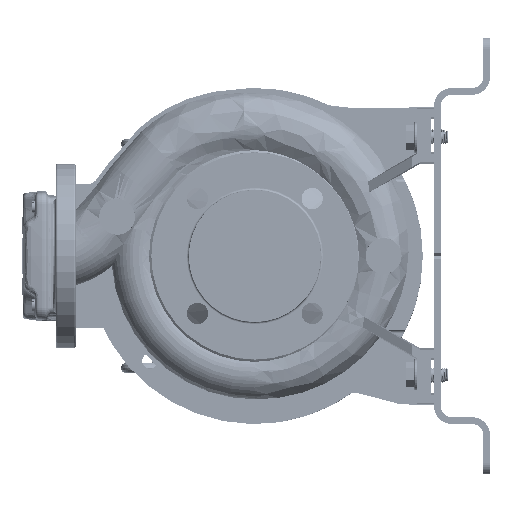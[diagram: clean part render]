
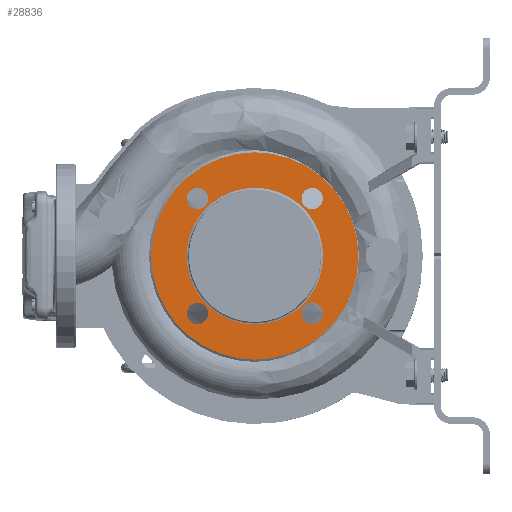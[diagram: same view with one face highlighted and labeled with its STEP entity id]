
A CAD part, left-side view. The second image highlights one B-rep face of the part: STEP entity #28836.
In plain terms, the highlighted planar face has unit normal (-1, 0, 0).
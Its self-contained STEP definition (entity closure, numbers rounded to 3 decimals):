
#1173 = EDGE_CURVE ( 'NONE', #236985, #14493, #52329, .T. ) ;
#1430 = DIRECTION ( 'NONE',  ( 0., 1., 0. ) ) ;
#1461 = EDGE_CURVE ( 'NONE', #43977, #111875, #141945, .T. ) ;
#3046 = EDGE_CURVE ( 'NONE', #185045, #164120, #125003, .T. ) ;
#5176 = DIRECTION ( 'NONE',  ( 0., 1., 0. ) ) ;
#8111 = AXIS2_PLACEMENT_3D ( 'NONE', #75409, #150077, #114531 ) ;
#8340 = CARTESIAN_POINT ( 'NONE',  ( -159.045, 254.383, 260.318 ) ) ;
#12175 = VERTEX_POINT ( 'NONE', #209422 ) ;
#12359 = DIRECTION ( 'NONE',  ( 0., 1., 0. ) ) ;
#14493 = VERTEX_POINT ( 'NONE', #230992 ) ;
#15473 = EDGE_CURVE ( 'NONE', #60992, #107835, #57093, .T. ) ;
#15976 = DIRECTION ( 'NONE',  ( -1., 0., 0. ) ) ;
#24694 = CARTESIAN_POINT ( 'NONE',  ( -159.045, 151.853, 260.318 ) ) ;
#24805 = AXIS2_PLACEMENT_3D ( 'NONE', #101609, #35141, #12359 ) ;
#28836 = ADVANCED_FACE ( 'NONE', ( #114984, #187346, #96636, #37967, #80664, #56274 ), #228930, .F. ) ;
#29179 = VERTEX_POINT ( 'NONE', #8340 ) ;
#29770 = DIRECTION ( 'NONE',  ( 0., -1., 0. ) ) ;
#35141 = DIRECTION ( 'NONE',  ( -1., 0., 0. ) ) ;
#37967 = FACE_BOUND ( 'NONE', #113024, .T. ) ;
#38101 = DIRECTION ( 'NONE',  ( -1., 0., 0. ) ) ;
#38172 = DIRECTION ( 'NONE',  ( 0., -1., 0. ) ) ;
#39035 = ORIENTED_EDGE ( 'NONE', *, *, #1461, .F. ) ;
#43977 = VERTEX_POINT ( 'NONE', #115407 ) ;
#49484 = ORIENTED_EDGE ( 'NONE', *, *, #217542, .T. ) ;
#52317 = DIRECTION ( 'NONE',  ( 0., 0., 1. ) ) ;
#52329 = CIRCLE ( 'NONE', #204849, 92.5 ) ;
#52388 = DIRECTION ( 'NONE',  ( 0., -1., 0. ) ) ;
#53236 = AXIS2_PLACEMENT_3D ( 'NONE', #237925, #70110, #140044 ) ;
#56274 = FACE_OUTER_BOUND ( 'NONE', #139625, .T. ) ;
#57093 = CIRCLE ( 'NONE', #53236, 9.5 ) ;
#60992 = VERTEX_POINT ( 'NONE', #88921 ) ;
#63313 = AXIS2_PLACEMENT_3D ( 'NONE', #214489, #210889, #156875 ) ;
#64120 = AXIS2_PLACEMENT_3D ( 'NONE', #79074, #15976, #146836 ) ;
#64262 = EDGE_LOOP ( 'NONE', ( #162462, #89680 ) ) ;
#64632 = AXIS2_PLACEMENT_3D ( 'NONE', #73192, #94005, #52388 ) ;
#64816 = ORIENTED_EDGE ( 'NONE', *, *, #78215, .F. ) ;
#65347 = AXIS2_PLACEMENT_3D ( 'NONE', #116202, #112594, #1430 ) ;
#66482 = AXIS2_PLACEMENT_3D ( 'NONE', #93237, #96828, #38172 ) ;
#70110 = DIRECTION ( 'NONE',  ( -1., 0., 0. ) ) ;
#73192 = CARTESIAN_POINT ( 'NONE',  ( -159.045, 193.618, 311.583 ) ) ;
#73719 = AXIS2_PLACEMENT_3D ( 'NONE', #142326, #85927, #119102 ) ;
#75409 = CARTESIAN_POINT ( 'NONE',  ( -159.045, 193.618, 311.583 ) ) ;
#78215 = EDGE_CURVE ( 'NONE', #29179, #236916, #114359, .T. ) ;
#79074 = CARTESIAN_POINT ( 'NONE',  ( -159.045, 193.618, 311.583 ) ) ;
#80664 = FACE_BOUND ( 'NONE', #217685, .T. ) ;
#84201 = CARTESIAN_POINT ( 'NONE',  ( -159.045, 244.883, 260.318 ) ) ;
#84632 = CARTESIAN_POINT ( 'NONE',  ( -159.045, 142.353, 362.849 ) ) ;
#85927 = DIRECTION ( 'NONE',  ( -1., 0., 0. ) ) ;
#88921 = CARTESIAN_POINT ( 'NONE',  ( -159.045, 132.853, 362.849 ) ) ;
#89680 = ORIENTED_EDGE ( 'NONE', *, *, #136914, .F. ) ;
#91117 = ORIENTED_EDGE ( 'NONE', *, *, #140052, .F. ) ;
#92782 = EDGE_CURVE ( 'NONE', #164120, #185045, #187188, .T. ) ;
#93237 = CARTESIAN_POINT ( 'NONE',  ( -159.045, 244.883, 362.849 ) ) ;
#94005 = DIRECTION ( 'NONE',  ( -1., 0., 0. ) ) ;
#96636 = FACE_BOUND ( 'NONE', #156198, .T. ) ;
#96828 = DIRECTION ( 'NONE',  ( -1., 0., 0. ) ) ;
#99284 = VERTEX_POINT ( 'NONE', #236630 ) ;
#99477 = CARTESIAN_POINT ( 'NONE',  ( -159.045, 193.618, 311.583 ) ) ;
#101609 = CARTESIAN_POINT ( 'NONE',  ( -159.045, 142.353, 260.318 ) ) ;
#107835 = VERTEX_POINT ( 'NONE', #227639 ) ;
#110995 = CIRCLE ( 'NONE', #64120, 61. ) ;
#111875 = VERTEX_POINT ( 'NONE', #24694 ) ;
#112102 = AXIS2_PLACEMENT_3D ( 'NONE', #84632, #194939, #155746 ) ;
#112594 = DIRECTION ( 'NONE',  ( 1., 0., 0. ) ) ;
#113024 = EDGE_LOOP ( 'NONE', ( #181396, #206085 ) ) ;
#113433 = CIRCLE ( 'NONE', #8111, 61. ) ;
#114359 = CIRCLE ( 'NONE', #239398, 9.5 ) ;
#114531 = DIRECTION ( 'NONE',  ( 0., -1., 0. ) ) ;
#114984 = FACE_BOUND ( 'NONE', #64262, .T. ) ;
#115407 = CARTESIAN_POINT ( 'NONE',  ( -159.045, 132.853, 260.318 ) ) ;
#116202 = CARTESIAN_POINT ( 'NONE',  ( -159.045, 254.618, 311.583 ) ) ;
#119102 = DIRECTION ( 'NONE',  ( 0., -1., 0. ) ) ;
#119628 = AXIS2_PLACEMENT_3D ( 'NONE', #131116, #38101, #5176 ) ;
#125003 = CIRCLE ( 'NONE', #66482, 9.5 ) ;
#128582 = ORIENTED_EDGE ( 'NONE', *, *, #235800, .F. ) ;
#131116 = CARTESIAN_POINT ( 'NONE',  ( -159.045, 142.353, 260.318 ) ) ;
#136914 = EDGE_CURVE ( 'NONE', #107835, #60992, #209934, .T. ) ;
#138383 = ORIENTED_EDGE ( 'NONE', *, *, #1173, .T. ) ;
#139625 = EDGE_LOOP ( 'NONE', ( #138383, #49484 ) ) ;
#140044 = DIRECTION ( 'NONE',  ( 0., 0., -1. ) ) ;
#140052 = EDGE_CURVE ( 'NONE', #12175, #99284, #113433, .T. ) ;
#141945 = CIRCLE ( 'NONE', #24805, 9.5 ) ;
#142326 = CARTESIAN_POINT ( 'NONE',  ( -159.045, 244.883, 362.849 ) ) ;
#146836 = DIRECTION ( 'NONE',  ( 0., -1., 0. ) ) ;
#147621 = EDGE_CURVE ( 'NONE', #236916, #29179, #219806, .T. ) ;
#150077 = DIRECTION ( 'NONE',  ( -1., 0., 0. ) ) ;
#150293 = ORIENTED_EDGE ( 'NONE', *, *, #177077, .F. ) ;
#155746 = DIRECTION ( 'NONE',  ( 0., 0., -1. ) ) ;
#156198 = EDGE_LOOP ( 'NONE', ( #179166, #64816 ) ) ;
#156875 = DIRECTION ( 'NONE',  ( 0., 0., 1. ) ) ;
#162462 = ORIENTED_EDGE ( 'NONE', *, *, #15473, .F. ) ;
#164120 = VERTEX_POINT ( 'NONE', #238227 ) ;
#174272 = DIRECTION ( 'NONE',  ( -1., 0., 0. ) ) ;
#177077 = EDGE_CURVE ( 'NONE', #99284, #12175, #110995, .T. ) ;
#179166 = ORIENTED_EDGE ( 'NONE', *, *, #147621, .F. ) ;
#181396 = ORIENTED_EDGE ( 'NONE', *, *, #3046, .F. ) ;
#185045 = VERTEX_POINT ( 'NONE', #187848 ) ;
#187188 = CIRCLE ( 'NONE', #73719, 9.5 ) ;
#187346 = FACE_BOUND ( 'NONE', #215907, .T. ) ;
#187848 = CARTESIAN_POINT ( 'NONE',  ( -159.045, 235.383, 362.849 ) ) ;
#193436 = CIRCLE ( 'NONE', #119628, 9.5 ) ;
#194939 = DIRECTION ( 'NONE',  ( -1., 0., 0. ) ) ;
#195815 = CARTESIAN_POINT ( 'NONE',  ( -159.045, 101.118, 311.583 ) ) ;
#196949 = DIRECTION ( 'NONE',  ( -1., 0., 0. ) ) ;
#204849 = AXIS2_PLACEMENT_3D ( 'NONE', #99477, #174272, #29770 ) ;
#206085 = ORIENTED_EDGE ( 'NONE', *, *, #92782, .F. ) ;
#209422 = CARTESIAN_POINT ( 'NONE',  ( -159.045, 132.618, 311.583 ) ) ;
#209934 = CIRCLE ( 'NONE', #112102, 9.5 ) ;
#210889 = DIRECTION ( 'NONE',  ( -1., 0., 0. ) ) ;
#214489 = CARTESIAN_POINT ( 'NONE',  ( -159.045, 244.883, 260.318 ) ) ;
#215907 = EDGE_LOOP ( 'NONE', ( #39035, #128582 ) ) ;
#217542 = EDGE_CURVE ( 'NONE', #14493, #236985, #236697, .T. ) ;
#217685 = EDGE_LOOP ( 'NONE', ( #91117, #150293 ) ) ;
#219806 = CIRCLE ( 'NONE', #63313, 9.5 ) ;
#227639 = CARTESIAN_POINT ( 'NONE',  ( -159.045, 151.853, 362.849 ) ) ;
#228930 = PLANE ( 'NONE',  #65347 ) ;
#230992 = CARTESIAN_POINT ( 'NONE',  ( -159.045, 286.118, 311.583 ) ) ;
#231374 = CARTESIAN_POINT ( 'NONE',  ( -159.045, 235.383, 260.318 ) ) ;
#235800 = EDGE_CURVE ( 'NONE', #111875, #43977, #193436, .T. ) ;
#236630 = CARTESIAN_POINT ( 'NONE',  ( -159.045, 254.618, 311.583 ) ) ;
#236697 = CIRCLE ( 'NONE', #64632, 92.5 ) ;
#236916 = VERTEX_POINT ( 'NONE', #231374 ) ;
#236985 = VERTEX_POINT ( 'NONE', #195815 ) ;
#237925 = CARTESIAN_POINT ( 'NONE',  ( -159.045, 142.353, 362.849 ) ) ;
#238227 = CARTESIAN_POINT ( 'NONE',  ( -159.045, 254.383, 362.849 ) ) ;
#239398 = AXIS2_PLACEMENT_3D ( 'NONE', #84201, #196949, #52317 ) ;
